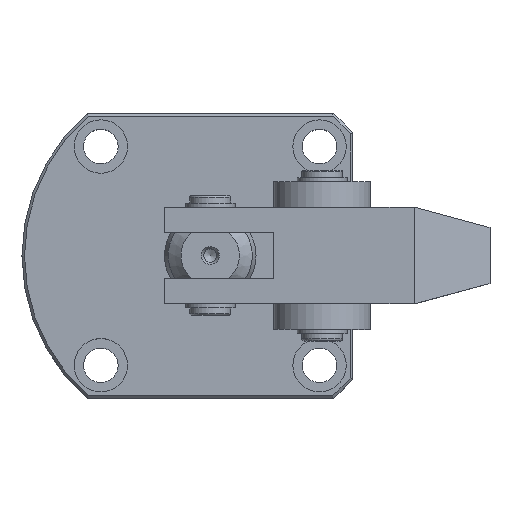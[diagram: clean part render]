
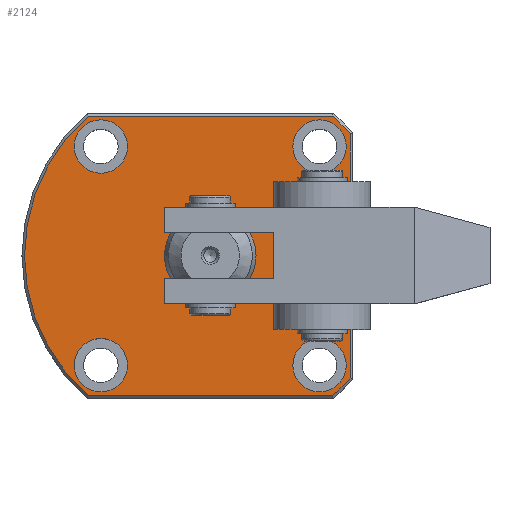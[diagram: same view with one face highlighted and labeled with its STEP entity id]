
A CAD part, top view. The second image highlights one B-rep face of the part: STEP entity #2124.
In plain terms, the highlighted planar face has unit normal (0, 0, 1).
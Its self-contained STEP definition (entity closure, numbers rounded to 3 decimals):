
#186=LINE('',#3379,#299);
#187=LINE('',#3382,#300);
#188=LINE('',#3384,#301);
#189=LINE('',#3388,#302);
#190=LINE('',#3392,#303);
#191=LINE('',#3396,#304);
#192=LINE('',#3398,#305);
#299=VECTOR('',#2670,1000.);
#300=VECTOR('',#2671,1000.);
#301=VECTOR('',#2672,1000.);
#302=VECTOR('',#2675,1000.);
#303=VECTOR('',#2678,1000.);
#304=VECTOR('',#2681,1000.);
#305=VECTOR('',#2682,1000.);
#412=ORIENTED_EDGE('',*,*,#940,.T.);
#413=ORIENTED_EDGE('',*,*,#941,.F.);
#414=ORIENTED_EDGE('',*,*,#942,.F.);
#415=ORIENTED_EDGE('',*,*,#943,.F.);
#416=ORIENTED_EDGE('',*,*,#944,.F.);
#417=ORIENTED_EDGE('',*,*,#945,.T.);
#418=ORIENTED_EDGE('',*,*,#946,.T.);
#419=ORIENTED_EDGE('',*,*,#947,.T.);
#420=ORIENTED_EDGE('',*,*,#948,.T.);
#421=ORIENTED_EDGE('',*,*,#949,.T.);
#422=ORIENTED_EDGE('',*,*,#950,.T.);
#423=ORIENTED_EDGE('',*,*,#951,.T.);
#424=ORIENTED_EDGE('',*,*,#952,.T.);
#425=ORIENTED_EDGE('',*,*,#953,.T.);
#426=ORIENTED_EDGE('',*,*,#954,.F.);
#940=EDGE_CURVE('',#1204,#1204,#1406,.T.);
#941=EDGE_CURVE('',#1205,#1205,#1407,.T.);
#942=EDGE_CURVE('',#1206,#1206,#1408,.T.);
#943=EDGE_CURVE('',#1207,#1207,#1409,.T.);
#944=EDGE_CURVE('',#1208,#1208,#1410,.T.);
#945=EDGE_CURVE('',#1209,#1210,#186,.T.);
#946=EDGE_CURVE('',#1210,#1211,#187,.T.);
#947=EDGE_CURVE('',#1211,#1212,#188,.T.);
#948=EDGE_CURVE('',#1212,#1213,#1411,.T.);
#949=EDGE_CURVE('',#1213,#1214,#189,.T.);
#950=EDGE_CURVE('',#1214,#1215,#1412,.T.);
#951=EDGE_CURVE('',#1215,#1216,#190,.T.);
#952=EDGE_CURVE('',#1216,#1217,#1413,.T.);
#953=EDGE_CURVE('',#1217,#1218,#191,.T.);
#954=EDGE_CURVE('',#1209,#1218,#192,.T.);
#1204=VERTEX_POINT('',#3370);
#1205=VERTEX_POINT('',#3372);
#1206=VERTEX_POINT('',#3374);
#1207=VERTEX_POINT('',#3376);
#1208=VERTEX_POINT('',#3378);
#1209=VERTEX_POINT('',#3380);
#1210=VERTEX_POINT('',#3381);
#1211=VERTEX_POINT('',#3383);
#1212=VERTEX_POINT('',#3385);
#1213=VERTEX_POINT('',#3387);
#1214=VERTEX_POINT('',#3389);
#1215=VERTEX_POINT('',#3391);
#1216=VERTEX_POINT('',#3393);
#1217=VERTEX_POINT('',#3395);
#1218=VERTEX_POINT('',#3397);
#1406=CIRCLE('',#2359,9.);
#1407=CIRCLE('',#2360,5.25);
#1408=CIRCLE('',#2361,5.25);
#1409=CIRCLE('',#2362,5.25);
#1410=CIRCLE('',#2363,5.25);
#1411=CIRCLE('',#2364,36.5);
#1412=CIRCLE('',#2365,36.5);
#1413=CIRCLE('',#2366,36.5);
#1537=EDGE_LOOP('',(#412));
#1538=EDGE_LOOP('',(#413));
#1539=EDGE_LOOP('',(#414));
#1540=EDGE_LOOP('',(#415));
#1541=EDGE_LOOP('',(#416));
#1542=EDGE_LOOP('',(#417,#418,#419,#420,#421,#422,#423,#424,#425,#426));
#1792=FACE_BOUND('',#1537,.T.);
#1793=FACE_BOUND('',#1538,.T.);
#1794=FACE_BOUND('',#1539,.T.);
#1795=FACE_BOUND('',#1540,.T.);
#1796=FACE_BOUND('',#1541,.T.);
#1797=FACE_BOUND('',#1542,.T.);
#2048=PLANE('',#2358);
#2124=ADVANCED_FACE('',(#1792,#1793,#1794,#1795,#1796,#1797),#2048,.T.);
#2358=AXIS2_PLACEMENT_3D('',#3368,#2658,#2659);
#2359=AXIS2_PLACEMENT_3D('',#3369,#2660,#2661);
#2360=AXIS2_PLACEMENT_3D('',#3371,#2662,#2663);
#2361=AXIS2_PLACEMENT_3D('',#3373,#2664,#2665);
#2362=AXIS2_PLACEMENT_3D('',#3375,#2666,#2667);
#2363=AXIS2_PLACEMENT_3D('',#3377,#2668,#2669);
#2364=AXIS2_PLACEMENT_3D('',#3386,#2673,#2674);
#2365=AXIS2_PLACEMENT_3D('',#3390,#2676,#2677);
#2366=AXIS2_PLACEMENT_3D('',#3394,#2679,#2680);
#2658=DIRECTION('',(0.,0.,1.));
#2659=DIRECTION('',(0.,-1.,0.));
#2660=DIRECTION('',(0.,0.,-1.));
#2661=DIRECTION('',(0.,-1.,0.));
#2662=DIRECTION('',(0.,0.,1.));
#2663=DIRECTION('',(1.,0.,0.));
#2664=DIRECTION('',(0.,0.,1.));
#2665=DIRECTION('',(1.,0.,0.));
#2666=DIRECTION('',(0.,0.,1.));
#2667=DIRECTION('',(1.,0.,0.));
#2668=DIRECTION('',(0.,0.,1.));
#2669=DIRECTION('',(1.,0.,0.));
#2670=DIRECTION('',(0.,1.,0.));
#2671=DIRECTION('',(1.,0.,0.));
#2672=DIRECTION('',(0.,1.,0.));
#2673=DIRECTION('',(0.,0.,1.));
#2674=DIRECTION('',(0.,-1.,0.));
#2675=DIRECTION('',(-1.,0.,0.));
#2676=DIRECTION('',(0.,0.,1.));
#2677=DIRECTION('',(0.,-1.,0.));
#2678=DIRECTION('',(1.,0.,0.));
#2679=DIRECTION('',(0.,0.,1.));
#2680=DIRECTION('',(0.,-1.,0.));
#2681=DIRECTION('',(0.,1.,0.));
#2682=DIRECTION('',(1.,0.,0.));
#3368=CARTESIAN_POINT('',(-9.25,29.,15.));
#3369=CARTESIAN_POINT('',(-9.25,29.,15.));
#3370=CARTESIAN_POINT('',(-9.25,20.,15.));
#3371=CARTESIAN_POINT('',(-30.75,7.5,15.));
#3372=CARTESIAN_POINT('',(-25.5,7.5,15.));
#3373=CARTESIAN_POINT('',(12.25,7.5,15.));
#3374=CARTESIAN_POINT('',(17.5,7.5,15.));
#3375=CARTESIAN_POINT('',(12.25,50.5,15.));
#3376=CARTESIAN_POINT('',(17.5,50.5,15.));
#3377=CARTESIAN_POINT('',(-30.75,50.5,15.));
#3378=CARTESIAN_POINT('',(-25.5,50.5,15.));
#3379=CARTESIAN_POINT('',(4.75,19.5,15.));
#3380=CARTESIAN_POINT('',(4.75,19.5,15.));
#3381=CARTESIAN_POINT('',(4.75,38.5,15.));
#3382=CARTESIAN_POINT('',(4.75,38.5,15.));
#3383=CARTESIAN_POINT('',(18.25,38.5,15.));
#3384=CARTESIAN_POINT('',(18.25,29.,15.));
#3385=CARTESIAN_POINT('',(18.25,53.,15.));
#3386=CARTESIAN_POINT('',(-9.25,29.,15.));
#3387=CARTESIAN_POINT('',(14.75,56.5,15.));
#3388=CARTESIAN_POINT('',(-9.25,56.5,15.));
#3389=CARTESIAN_POINT('',(-33.25,56.5,15.));
#3390=CARTESIAN_POINT('',(-9.25,29.,15.));
#3391=CARTESIAN_POINT('',(-33.25,1.5,15.));
#3392=CARTESIAN_POINT('',(-9.25,1.5,15.));
#3393=CARTESIAN_POINT('',(14.75,1.5,15.));
#3394=CARTESIAN_POINT('',(-9.25,29.,15.));
#3395=CARTESIAN_POINT('',(18.25,5.,15.));
#3396=CARTESIAN_POINT('',(18.25,29.,15.));
#3397=CARTESIAN_POINT('',(18.25,19.5,15.));
#3398=CARTESIAN_POINT('',(4.75,19.5,15.));
